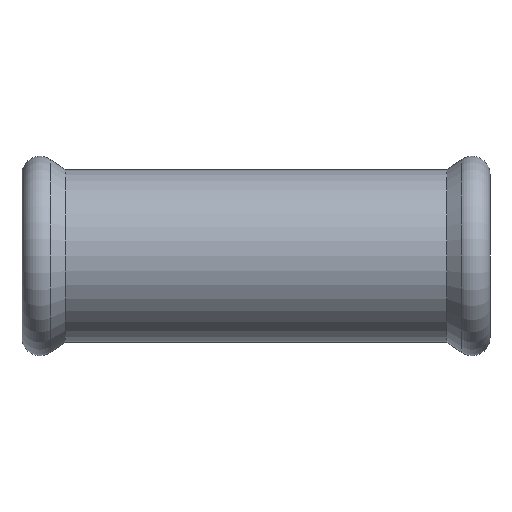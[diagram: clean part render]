
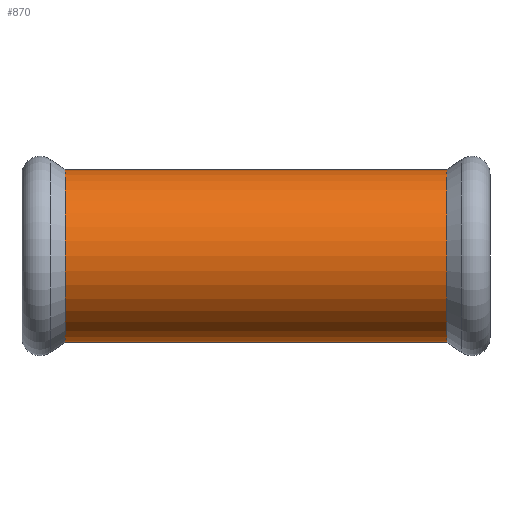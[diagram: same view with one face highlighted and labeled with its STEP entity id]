
A CAD part, front view. The second image highlights one B-rep face of the part: STEP entity #870.
In plain terms, the highlighted cylindrical face has radius 19.15 mm (diameter 38.3 mm), a partial arc.
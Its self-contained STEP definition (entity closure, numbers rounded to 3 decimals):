
#43 = DIRECTION ( 'NONE',  ( -1., 0., 0. ) ) ;
#100 = DIRECTION ( 'NONE',  ( -1., 0., 0. ) ) ;
#116 = AXIS2_PLACEMENT_3D ( 'NONE', #138, #43, #989 ) ;
#138 = CARTESIAN_POINT ( 'NONE',  ( -42.362, 0., 0. ) ) ;
#167 = ORIENTED_EDGE ( 'NONE', *, *, #970, .T. ) ;
#168 = EDGE_CURVE ( 'NONE', #635, #259, #220, .T. ) ;
#218 = ORIENTED_EDGE ( 'NONE', *, *, #759, .F. ) ;
#220 = CIRCLE ( 'NONE', #116, 19.15 ) ;
#259 = VERTEX_POINT ( 'NONE', #270 ) ;
#261 = DIRECTION ( 'NONE',  ( -1., 0., 0. ) ) ;
#266 = AXIS2_PLACEMENT_3D ( 'NONE', #955, #100, #470 ) ;
#270 = CARTESIAN_POINT ( 'NONE',  ( -42.362, 0., 19.15 ) ) ;
#280 = CARTESIAN_POINT ( 'NONE',  ( -84.842, 0., 19.15 ) ) ;
#358 = CIRCLE ( 'NONE', #266, 19.15 ) ;
#409 = CARTESIAN_POINT ( 'NONE',  ( 42.362, 0., 19.15 ) ) ;
#470 = DIRECTION ( 'NONE',  ( 0., 0., 1. ) ) ;
#517 = DIRECTION ( 'NONE',  ( -1., 0., 0. ) ) ;
#520 = LINE ( 'NONE', #923, #983 ) ;
#545 = FACE_OUTER_BOUND ( 'NONE', #787, .T. ) ;
#555 = ORIENTED_EDGE ( 'NONE', *, *, #168, .F. ) ;
#572 = CARTESIAN_POINT ( 'NONE',  ( 42.362, 0., -19.15 ) ) ;
#635 = VERTEX_POINT ( 'NONE', #872 ) ;
#667 = DIRECTION ( 'NONE',  ( -1., 0., 0. ) ) ;
#734 = ORIENTED_EDGE ( 'NONE', *, *, #943, .T. ) ;
#759 = EDGE_CURVE ( 'NONE', #957, #635, #520, .T. ) ;
#761 = LINE ( 'NONE', #280, #767 ) ;
#767 = VECTOR ( 'NONE', #667, 1000. ) ;
#787 = EDGE_LOOP ( 'NONE', ( #218, #167, #734, #555 ) ) ;
#870 = ADVANCED_FACE ( 'NONE', ( #545 ), #1123, .T. ) ;
#872 = CARTESIAN_POINT ( 'NONE',  ( -42.362, 0., -19.15 ) ) ;
#923 = CARTESIAN_POINT ( 'NONE',  ( -84.842, 0., -19.15 ) ) ;
#933 = CARTESIAN_POINT ( 'NONE',  ( -84.842, 0., 0. ) ) ;
#943 = EDGE_CURVE ( 'NONE', #1045, #259, #761, .T. ) ;
#955 = CARTESIAN_POINT ( 'NONE',  ( 42.362, 0., 0. ) ) ;
#957 = VERTEX_POINT ( 'NONE', #572 ) ;
#970 = EDGE_CURVE ( 'NONE', #957, #1045, #358, .T. ) ;
#983 = VECTOR ( 'NONE', #517, 1000. ) ;
#989 = DIRECTION ( 'NONE',  ( 0., 0., 1. ) ) ;
#1045 = VERTEX_POINT ( 'NONE', #409 ) ;
#1123 = CYLINDRICAL_SURFACE ( 'NONE', #1150, 19.15 ) ;
#1128 = DIRECTION ( 'NONE',  ( 0., 0., 1. ) ) ;
#1150 = AXIS2_PLACEMENT_3D ( 'NONE', #933, #261, #1128 ) ;
